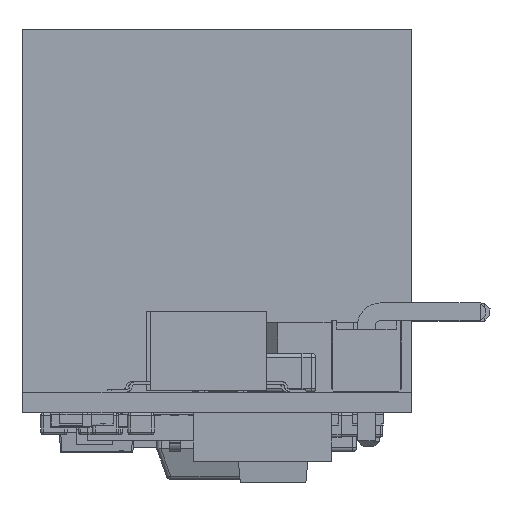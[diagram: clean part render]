
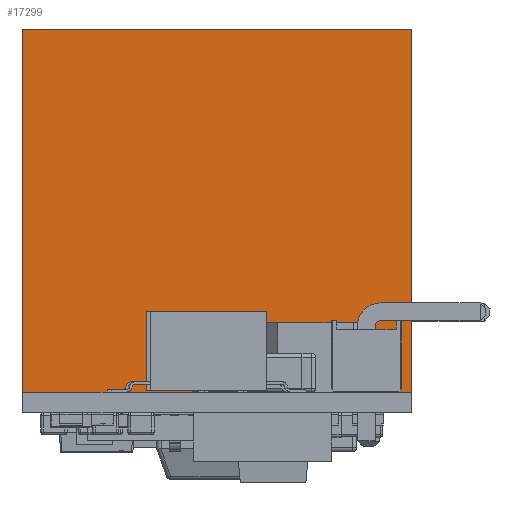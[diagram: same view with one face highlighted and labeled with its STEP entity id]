
A CAD part, left-side view. The second image highlights one B-rep face of the part: STEP entity #17299.
In plain terms, the highlighted planar face has unit normal (-1, 0, 0).
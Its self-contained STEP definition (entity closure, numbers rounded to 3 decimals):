
#12378=FACE_OUTER_BOUND($,#13291,.T.);
#13291=EDGE_LOOP($,(#18685,#18686,#18687,#18688));
#14631=AXIS2_PLACEMENT_3D($,#43398,#36650,$);
#16397=PLANE($,#14631);
#17299=ADVANCED_FACE($,(#12378),#16397,.T.);
#18685=ORIENTED_EDGE($,*,*,#24442,.T.);
#18686=ORIENTED_EDGE($,*,*,#24451,.T.);
#18687=ORIENTED_EDGE($,*,*,#24446,.F.);
#18688=ORIENTED_EDGE($,*,*,#24450,.F.);
#24442=EDGE_CURVE($,#34054,#34055,#30693,.T.);
#24446=EDGE_CURVE($,#34059,#34060,#30697,.T.);
#24450=EDGE_CURVE($,#34054,#34059,#30701,.T.);
#24451=EDGE_CURVE($,#34055,#34060,#30702,.T.);
#27337=VECTOR($,#36637,14.021);
#27341=VECTOR($,#36641,14.021);
#27345=VECTOR($,#36645,13.081);
#27346=VECTOR($,#36646,13.081);
#30693=LINE($,#43398,#27337);
#30697=LINE($,#43403,#27341);
#30701=LINE($,#43398,#27345);
#30702=LINE($,#43399,#27346);
#34054=VERTEX_POINT($,#43398);
#34055=VERTEX_POINT($,#43399);
#34059=VERTEX_POINT($,#43403);
#34060=VERTEX_POINT($,#43404);
#36637=DIRECTION($,(0.,1.,0.));
#36641=DIRECTION($,(0.,1.,0.));
#36645=DIRECTION($,(0.,0.,-1.));
#36646=DIRECTION($,(0.,0.,-1.));
#36650=DIRECTION($,(-1.,0.,0.));
#43398=CARTESIAN_POINT('',(1.357,-12.01,13.081));
#43399=CARTESIAN_POINT('',(1.357,2.011,13.081));
#43403=CARTESIAN_POINT('',(1.357,-12.01,0.));
#43404=CARTESIAN_POINT('',(1.357,2.011,0.));
